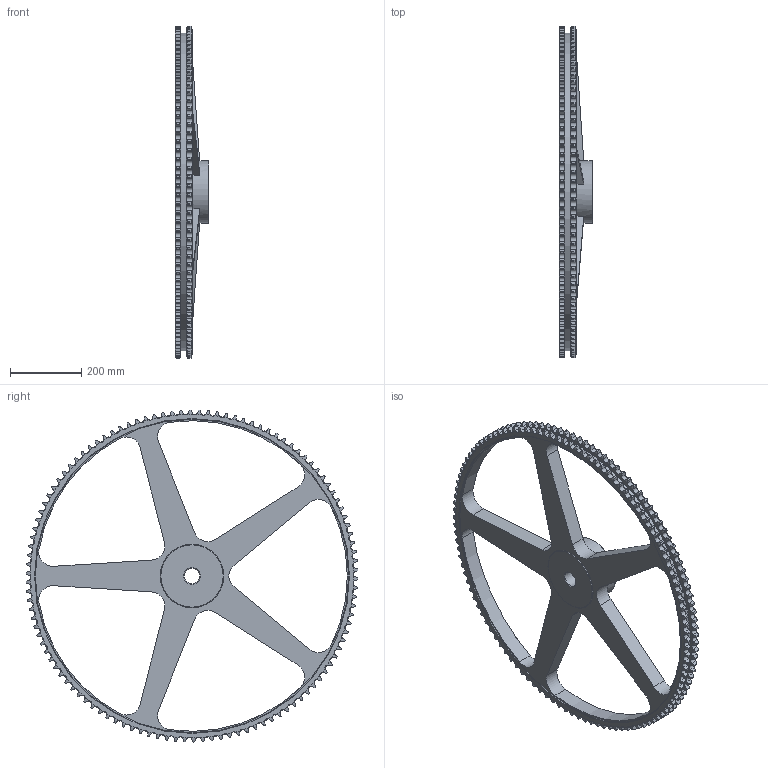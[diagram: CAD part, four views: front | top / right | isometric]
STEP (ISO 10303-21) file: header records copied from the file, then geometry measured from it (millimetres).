
FILE_DESCRIPTION(/* description */ (''),/* implementation_level */ '2;1');
FILE_NAME(/* name */ 'C:\Users\stagistacad\Desktop\12225114.stp',/* time_stamp */ '2018-06-21T14:40:20+02:00',/* author */ ('stagistacad'),/* organization */ (''),/* preprocessor_version */ 'ST-DEVELOPER v15.6',/* originating_system */ 'Autodesk Inventor 2015',/* authorisation */ '');
FILE_SCHEMA (('AUTOMOTIVE_DESIGN { 1 0 10303 214 3 1 1 }'));
Products named in the file (1): 12225114
Bounding box: 95 x 932.86 x 932.91 mm (x, y, z)
Volume: 10297520.6 mm3; surface area: 1021626.6 mm2
Topology: 1 solids, 1 shells, 1452 faces, 4784 edges, 3111 vertices
Faces by surface type: cylinder 938, torus 361, plane 146, cone 7
Full cylindrical faces by diameter (mm): 44 x1, 175 x2, 884.533 x2, 892.93 x1
Entity records: 57995 total; most frequent: CARTESIAN_POINT 17837, ORIENTED_EDGE 9540, DIRECTION 7726, EDGE_CURVE 4770, AXIS2_PLACEMENT_3D 3367, VERTEX_POINT 3109, CIRCLE 1914, B_SPLINE_CURVE_WITH_KNOTS 1854
